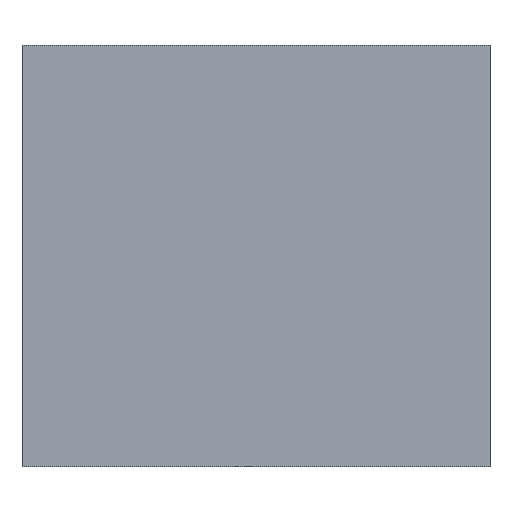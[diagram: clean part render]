
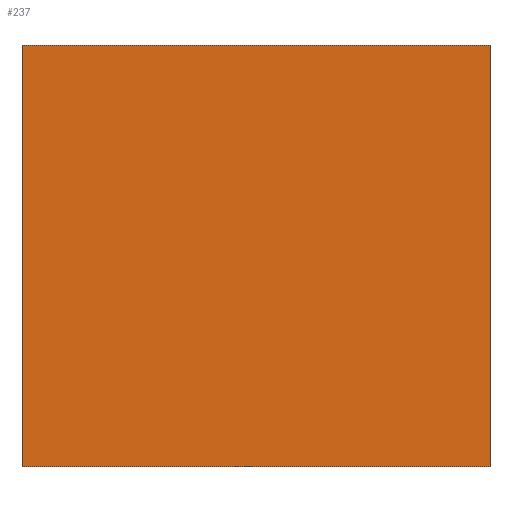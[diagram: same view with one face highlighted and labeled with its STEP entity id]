
A CAD part, front view. The second image highlights one B-rep face of the part: STEP entity #237.
In plain terms, the highlighted planar face has unit normal (0, -1, 0).
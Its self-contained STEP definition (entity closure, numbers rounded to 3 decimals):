
#21 = EDGE_CURVE('',#22,#24,#26,.T.);
#22 = VERTEX_POINT('',#23);
#23 = CARTESIAN_POINT('',(78.,-95.,-115.));
#24 = VERTEX_POINT('',#25);
#25 = CARTESIAN_POINT('',(78.,-95.,-97.));
#26 = SURFACE_CURVE('',#27,(#31,#43),.PCURVE_S1.);
#27 = LINE('',#28,#29);
#28 = CARTESIAN_POINT('',(78.,-95.,-115.));
#29 = VECTOR('',#30,1.);
#30 = DIRECTION('',(0.,0.,1.));
#31 = PCURVE('',#32,#37);
#32 = PLANE('',#33);
#33 = AXIS2_PLACEMENT_3D('',#34,#35,#36);
#34 = CARTESIAN_POINT('',(78.,-95.,-115.));
#35 = DIRECTION('',(1.,0.,0.));
#36 = DIRECTION('',(0.,0.,1.));
#37 = DEFINITIONAL_REPRESENTATION('',(#38),#42);
#38 = LINE('',#39,#40);
#39 = CARTESIAN_POINT('',(0.,0.));
#40 = VECTOR('',#41,1.);
#41 = DIRECTION('',(1.,0.));
#42 = ( GEOMETRIC_REPRESENTATION_CONTEXT(2) 
PARAMETRIC_REPRESENTATION_CONTEXT() REPRESENTATION_CONTEXT('2D SPACE',''
  ) );
#43 = PCURVE('',#44,#49);
#44 = PLANE('',#45);
#45 = AXIS2_PLACEMENT_3D('',#46,#47,#48);
#46 = CARTESIAN_POINT('',(78.,-95.,-115.));
#47 = DIRECTION('',(0.,1.,0.));
#48 = DIRECTION('',(0.,0.,1.));
#49 = DEFINITIONAL_REPRESENTATION('',(#50),#54);
#50 = LINE('',#51,#52);
#51 = CARTESIAN_POINT('',(0.,0.));
#52 = VECTOR('',#53,1.);
#53 = DIRECTION('',(1.,0.));
#54 = ( GEOMETRIC_REPRESENTATION_CONTEXT(2) 
PARAMETRIC_REPRESENTATION_CONTEXT() REPRESENTATION_CONTEXT('2D SPACE',''
  ) );
#72 = PLANE('',#73);
#73 = AXIS2_PLACEMENT_3D('',#74,#75,#76);
#74 = CARTESIAN_POINT('',(78.,-95.,-115.));
#75 = DIRECTION('',(0.,0.,1.));
#76 = DIRECTION('',(1.,0.,0.));
#126 = PLANE('',#127);
#127 = AXIS2_PLACEMENT_3D('',#128,#129,#130);
#128 = CARTESIAN_POINT('',(78.,-95.,-97.));
#129 = DIRECTION('',(0.,0.,1.));
#130 = DIRECTION('',(1.,0.,0.));
#141 = EDGE_CURVE('',#142,#144,#146,.T.);
#142 = VERTEX_POINT('',#143);
#143 = CARTESIAN_POINT('',(98.,-95.,-115.));
#144 = VERTEX_POINT('',#145);
#145 = CARTESIAN_POINT('',(98.,-95.,-97.));
#146 = SURFACE_CURVE('',#147,(#151,#163),.PCURVE_S1.);
#147 = LINE('',#148,#149);
#148 = CARTESIAN_POINT('',(98.,-95.,-115.));
#149 = VECTOR('',#150,1.);
#150 = DIRECTION('',(0.,0.,1.));
#151 = PCURVE('',#152,#157);
#152 = PLANE('',#153);
#153 = AXIS2_PLACEMENT_3D('',#154,#155,#156);
#154 = CARTESIAN_POINT('',(98.,-95.,-115.));
#155 = DIRECTION('',(1.,0.,0.));
#156 = DIRECTION('',(0.,0.,1.));
#157 = DEFINITIONAL_REPRESENTATION('',(#158),#162);
#158 = LINE('',#159,#160);
#159 = CARTESIAN_POINT('',(0.,0.));
#160 = VECTOR('',#161,1.);
#161 = DIRECTION('',(1.,0.));
#162 = ( GEOMETRIC_REPRESENTATION_CONTEXT(2) 
PARAMETRIC_REPRESENTATION_CONTEXT() REPRESENTATION_CONTEXT('2D SPACE',''
  ) );
#163 = PCURVE('',#44,#164);
#164 = DEFINITIONAL_REPRESENTATION('',(#165),#169);
#165 = LINE('',#166,#167);
#166 = CARTESIAN_POINT('',(0.,20.));
#167 = VECTOR('',#168,1.);
#168 = DIRECTION('',(1.,0.));
#169 = ( GEOMETRIC_REPRESENTATION_CONTEXT(2) 
PARAMETRIC_REPRESENTATION_CONTEXT() REPRESENTATION_CONTEXT('2D SPACE',''
  ) );
#237 = ADVANCED_FACE('',(#238),#44,.F.);
#238 = FACE_BOUND('',#239,.F.);
#239 = EDGE_LOOP('',(#240,#261,#262,#283));
#240 = ORIENTED_EDGE('',*,*,#241,.F.);
#241 = EDGE_CURVE('',#22,#142,#242,.T.);
#242 = SURFACE_CURVE('',#243,(#247,#254),.PCURVE_S1.);
#243 = LINE('',#244,#245);
#244 = CARTESIAN_POINT('',(78.,-95.,-115.));
#245 = VECTOR('',#246,1.);
#246 = DIRECTION('',(1.,0.,0.));
#247 = PCURVE('',#44,#248);
#248 = DEFINITIONAL_REPRESENTATION('',(#249),#253);
#249 = LINE('',#250,#251);
#250 = CARTESIAN_POINT('',(0.,0.));
#251 = VECTOR('',#252,1.);
#252 = DIRECTION('',(0.,1.));
#253 = ( GEOMETRIC_REPRESENTATION_CONTEXT(2) 
PARAMETRIC_REPRESENTATION_CONTEXT() REPRESENTATION_CONTEXT('2D SPACE',''
  ) );
#254 = PCURVE('',#72,#255);
#255 = DEFINITIONAL_REPRESENTATION('',(#256),#260);
#256 = LINE('',#257,#258);
#257 = CARTESIAN_POINT('',(0.,0.));
#258 = VECTOR('',#259,1.);
#259 = DIRECTION('',(1.,0.));
#260 = ( GEOMETRIC_REPRESENTATION_CONTEXT(2) 
PARAMETRIC_REPRESENTATION_CONTEXT() REPRESENTATION_CONTEXT('2D SPACE',''
  ) );
#261 = ORIENTED_EDGE('',*,*,#21,.T.);
#262 = ORIENTED_EDGE('',*,*,#263,.T.);
#263 = EDGE_CURVE('',#24,#144,#264,.T.);
#264 = SURFACE_CURVE('',#265,(#269,#276),.PCURVE_S1.);
#265 = LINE('',#266,#267);
#266 = CARTESIAN_POINT('',(78.,-95.,-97.));
#267 = VECTOR('',#268,1.);
#268 = DIRECTION('',(1.,0.,0.));
#269 = PCURVE('',#44,#270);
#270 = DEFINITIONAL_REPRESENTATION('',(#271),#275);
#271 = LINE('',#272,#273);
#272 = CARTESIAN_POINT('',(18.,0.));
#273 = VECTOR('',#274,1.);
#274 = DIRECTION('',(0.,1.));
#275 = ( GEOMETRIC_REPRESENTATION_CONTEXT(2) 
PARAMETRIC_REPRESENTATION_CONTEXT() REPRESENTATION_CONTEXT('2D SPACE',''
  ) );
#276 = PCURVE('',#126,#277);
#277 = DEFINITIONAL_REPRESENTATION('',(#278),#282);
#278 = LINE('',#279,#280);
#279 = CARTESIAN_POINT('',(0.,0.));
#280 = VECTOR('',#281,1.);
#281 = DIRECTION('',(1.,0.));
#282 = ( GEOMETRIC_REPRESENTATION_CONTEXT(2) 
PARAMETRIC_REPRESENTATION_CONTEXT() REPRESENTATION_CONTEXT('2D SPACE',''
  ) );
#283 = ORIENTED_EDGE('',*,*,#141,.F.);
